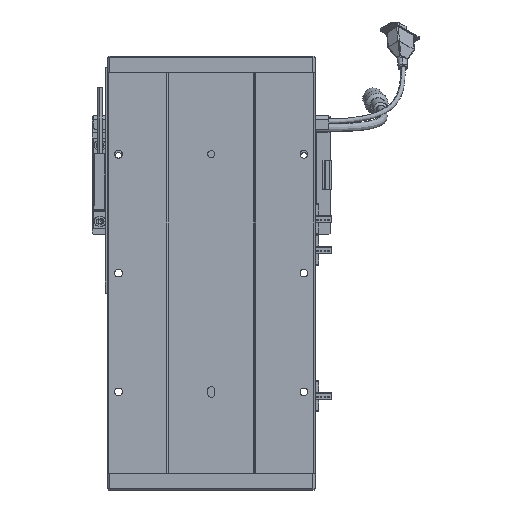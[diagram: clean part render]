
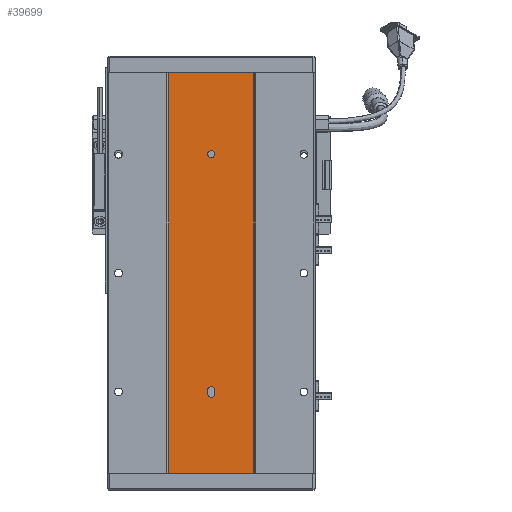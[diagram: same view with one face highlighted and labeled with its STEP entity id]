
A CAD part, front view. The second image highlights one B-rep face of the part: STEP entity #39699.
In plain terms, the highlighted planar face has unit normal (0, -1, 0).
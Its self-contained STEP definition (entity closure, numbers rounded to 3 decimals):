
#1414 = DIRECTION ( 'NONE',  ( 0., 0., -1. ) ) ;
#2461 = DIRECTION ( 'NONE',  ( 1., 0., 0. ) ) ;
#3052 = ORIENTED_EDGE ( 'NONE', *, *, #25994, .F. ) ;
#4934 = DIRECTION ( 'NONE',  ( 0., 0., -1. ) ) ;
#5388 = DIRECTION ( 'NONE',  ( 1., 0., 0. ) ) ;
#6638 = ORIENTED_EDGE ( 'NONE', *, *, #16753, .F. ) ;
#6875 = ORIENTED_EDGE ( 'NONE', *, *, #57080, .F. ) ;
#7531 = ORIENTED_EDGE ( 'NONE', *, *, #32785, .F. ) ;
#7731 = ORIENTED_EDGE ( 'NONE', *, *, #50348, .F. ) ;
#8228 = CARTESIAN_POINT ( 'NONE',  ( 3316.311, 1415.701, 337. ) ) ;
#9787 = VERTEX_POINT ( 'NONE', #46991 ) ;
#11247 = EDGE_CURVE ( 'NONE', #19657, #63273, #12498, .T. ) ;
#11359 = VERTEX_POINT ( 'NONE', #59591 ) ;
#12498 = CIRCLE ( 'NONE', #21870, 3. ) ;
#12566 = VERTEX_POINT ( 'NONE', #63799 ) ;
#13829 = EDGE_CURVE ( 'NONE', #52151, #21347, #52233, .T. ) ;
#14080 = DIRECTION ( 'NONE',  ( 0., 0., -1. ) ) ;
#15195 = CIRCLE ( 'NONE', #45945, 3. ) ;
#15944 = CARTESIAN_POINT ( 'NONE',  ( 3277.529, 1415.701, 70. ) ) ;
#16022 = CARTESIAN_POINT ( 'NONE',  ( 3280.529, 1415.701, 268.5 ) ) ;
#16328 = VERTEX_POINT ( 'NONE', #56064 ) ;
#16487 = CARTESIAN_POINT ( 'NONE',  ( 3316.311, 1415.701, 337. ) ) ;
#16753 = EDGE_CURVE ( 'NONE', #52151, #54054, #25885, .T. ) ;
#16943 = DIRECTION ( 'NONE',  ( 0., 0., -1. ) ) ;
#17662 = CARTESIAN_POINT ( 'NONE',  ( 3244.748, 1415.701, 0. ) ) ;
#17715 = EDGE_CURVE ( 'NONE', #54054, #9787, #18500, .T. ) ;
#18298 = EDGE_CURVE ( 'NONE', #21347, #9787, #56729, .T. ) ;
#18500 = LINE ( 'NONE', #16487, #39695 ) ;
#19657 = VERTEX_POINT ( 'NONE', #36341 ) ;
#19741 = DIRECTION ( 'NONE',  ( 0., 1., 0. ) ) ;
#20071 = EDGE_LOOP ( 'NONE', ( #7731, #3052 ) ) ;
#20723 = CARTESIAN_POINT ( 'NONE',  ( 3244.748, 1415.701, 0. ) ) ;
#20976 = VERTEX_POINT ( 'NONE', #61249 ) ;
#21347 = VERTEX_POINT ( 'NONE', #17662 ) ;
#21416 = CARTESIAN_POINT ( 'NONE',  ( 3244.748, 1415.701, 337. ) ) ;
#21870 = AXIS2_PLACEMENT_3D ( 'NONE', #63944, #37249, #1414 ) ;
#22860 = FACE_OUTER_BOUND ( 'NONE', #34245, .T. ) ;
#24955 = CARTESIAN_POINT ( 'NONE',  ( 3244.748, 1415.701, 337. ) ) ;
#25394 = DIRECTION ( 'NONE',  ( 0., 0., 1. ) ) ;
#25451 = AXIS2_PLACEMENT_3D ( 'NONE', #53458, #32685, #37982 ) ;
#25595 = ORIENTED_EDGE ( 'NONE', *, *, #47574, .F. ) ;
#25885 = LINE ( 'NONE', #59245, #49522 ) ;
#25994 = EDGE_CURVE ( 'NONE', #11359, #16328, #15195, .T. ) ;
#27120 = LINE ( 'NONE', #48142, #54088 ) ;
#27317 = EDGE_CURVE ( 'NONE', #63273, #12566, #35544, .T. ) ;
#28043 = DIRECTION ( 'NONE',  ( 0., 0., -1. ) ) ;
#28454 = CIRCLE ( 'NONE', #67098, 3. ) ;
#28992 = VECTOR ( 'NONE', #5388, 1000. ) ;
#30674 = DIRECTION ( 'NONE',  ( 0., 0., -1. ) ) ;
#31372 = CARTESIAN_POINT ( 'NONE',  ( 3277.529, 1415.701, 70. ) ) ;
#32685 = DIRECTION ( 'NONE',  ( 0., -1., 0. ) ) ;
#32785 = EDGE_CURVE ( 'NONE', #49176, #19657, #63095, .T. ) ;
#33442 = AXIS2_PLACEMENT_3D ( 'NONE', #24955, #19741, #25394 ) ;
#34245 = EDGE_LOOP ( 'NONE', ( #60621, #44560, #6638, #41068 ) ) ;
#35544 = CIRCLE ( 'NONE', #25451, 3. ) ;
#36180 = VECTOR ( 'NONE', #4934, 1000. ) ;
#36341 = CARTESIAN_POINT ( 'NONE',  ( 3277.529, 1415.701, 67. ) ) ;
#36728 = FACE_BOUND ( 'NONE', #20071, .T. ) ;
#37249 = DIRECTION ( 'NONE',  ( 0., -1., 0. ) ) ;
#37982 = DIRECTION ( 'NONE',  ( 0., 0., -1. ) ) ;
#39695 = VECTOR ( 'NONE', #16943, 1000. ) ;
#39699 = ADVANCED_FACE ( 'NONE', ( #57905, #36728, #22860 ), #41371, .F. ) ;
#40056 = DIRECTION ( 'NONE',  ( 0., -1., 0. ) ) ;
#41068 = ORIENTED_EDGE ( 'NONE', *, *, #13829, .T. ) ;
#41371 = PLANE ( 'NONE',  #33442 ) ;
#41787 = AXIS2_PLACEMENT_3D ( 'NONE', #16022, #48556, #28043 ) ;
#41982 = DIRECTION ( 'NONE',  ( 0., 0., -1. ) ) ;
#42355 = EDGE_LOOP ( 'NONE', ( #63152, #7531, #6875, #25595, #43704 ) ) ;
#43704 = ORIENTED_EDGE ( 'NONE', *, *, #27317, .F. ) ;
#44560 = ORIENTED_EDGE ( 'NONE', *, *, #17715, .F. ) ;
#45484 = CARTESIAN_POINT ( 'NONE',  ( 3280.529, 1415.701, 64. ) ) ;
#45945 = AXIS2_PLACEMENT_3D ( 'NONE', #55759, #40056, #14080 ) ;
#46991 = CARTESIAN_POINT ( 'NONE',  ( 3316.311, 1415.701, 0. ) ) ;
#47574 = EDGE_CURVE ( 'NONE', #12566, #20976, #27120, .T. ) ;
#48142 = CARTESIAN_POINT ( 'NONE',  ( 3283.529, 1415.701, 70. ) ) ;
#48556 = DIRECTION ( 'NONE',  ( 0., -1., 0. ) ) ;
#49176 = VERTEX_POINT ( 'NONE', #31372 ) ;
#49522 = VECTOR ( 'NONE', #2461, 1000. ) ;
#50348 = EDGE_CURVE ( 'NONE', #16328, #11359, #59564, .T. ) ;
#51452 = VECTOR ( 'NONE', #41982, 1000. ) ;
#52151 = VERTEX_POINT ( 'NONE', #21416 ) ;
#52233 = LINE ( 'NONE', #53952, #51452 ) ;
#52556 = CARTESIAN_POINT ( 'NONE',  ( 3280.529, 1415.701, 70. ) ) ;
#53458 = CARTESIAN_POINT ( 'NONE',  ( 3280.529, 1415.701, 67. ) ) ;
#53952 = CARTESIAN_POINT ( 'NONE',  ( 3244.748, 1415.701, 337. ) ) ;
#54054 = VERTEX_POINT ( 'NONE', #8228 ) ;
#54081 = DIRECTION ( 'NONE',  ( 0., 0., 1. ) ) ;
#54088 = VECTOR ( 'NONE', #54081, 1000. ) ;
#55759 = CARTESIAN_POINT ( 'NONE',  ( 3280.529, 1415.701, 268.5 ) ) ;
#56064 = CARTESIAN_POINT ( 'NONE',  ( 3280.529, 1415.701, 265.5 ) ) ;
#56729 = LINE ( 'NONE', #20723, #28992 ) ;
#57080 = EDGE_CURVE ( 'NONE', #20976, #49176, #28454, .T. ) ;
#57905 = FACE_BOUND ( 'NONE', #42355, .T. ) ;
#59245 = CARTESIAN_POINT ( 'NONE',  ( 3244.748, 1415.701, 337. ) ) ;
#59564 = CIRCLE ( 'NONE', #41787, 3. ) ;
#59591 = CARTESIAN_POINT ( 'NONE',  ( 3280.529, 1415.701, 271.5 ) ) ;
#60621 = ORIENTED_EDGE ( 'NONE', *, *, #18298, .T. ) ;
#61249 = CARTESIAN_POINT ( 'NONE',  ( 3283.529, 1415.701, 70. ) ) ;
#61975 = DIRECTION ( 'NONE',  ( 0., -1., 0. ) ) ;
#63095 = LINE ( 'NONE', #15944, #36180 ) ;
#63152 = ORIENTED_EDGE ( 'NONE', *, *, #11247, .F. ) ;
#63273 = VERTEX_POINT ( 'NONE', #45484 ) ;
#63799 = CARTESIAN_POINT ( 'NONE',  ( 3283.529, 1415.701, 67. ) ) ;
#63944 = CARTESIAN_POINT ( 'NONE',  ( 3280.529, 1415.701, 67. ) ) ;
#67098 = AXIS2_PLACEMENT_3D ( 'NONE', #52556, #61975, #30674 ) ;
